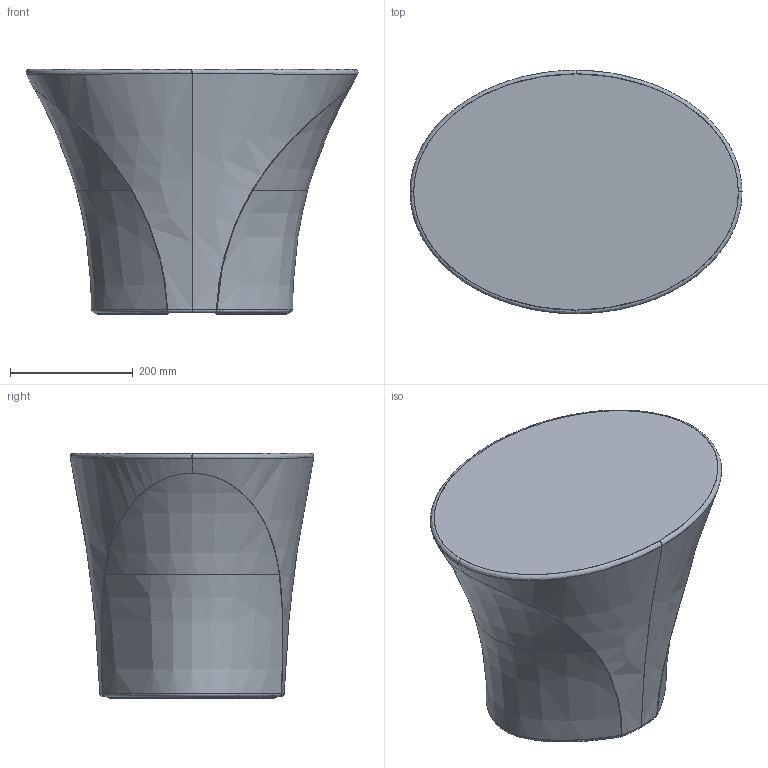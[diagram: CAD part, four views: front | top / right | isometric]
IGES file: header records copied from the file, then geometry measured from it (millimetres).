
Start section: START RECORD GO HERE.
Global section: file name: 34_enta_setsu & shinobu ito.igs; native system: IBM CATIA IGES - CATIA Version 5 Release 18 ; preprocessor: CATIA Version 5 Release 18 ; author: alberto_brogliato; organization: DOMAIN; date: 20100222.162012; units: millimetre
Bounding box: 541.07 x 397.06 x 399.95 mm (x, y, z)
Surface area: 711759.4 mm2 (no closed solid volume)
Topology: 0 solids, 0 shells, 119 faces, 533 edges, 520 vertices
Faces by surface type: bspline 119
